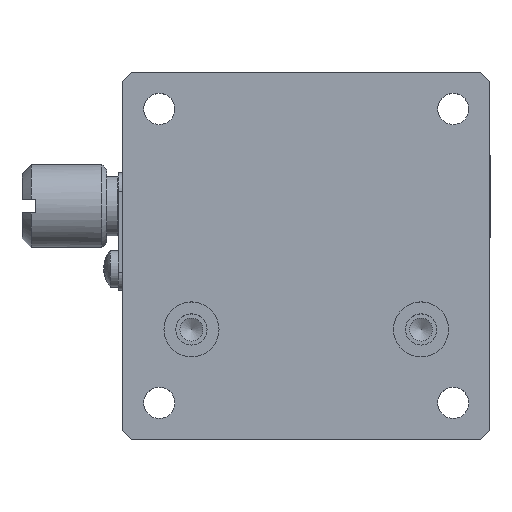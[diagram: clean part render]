
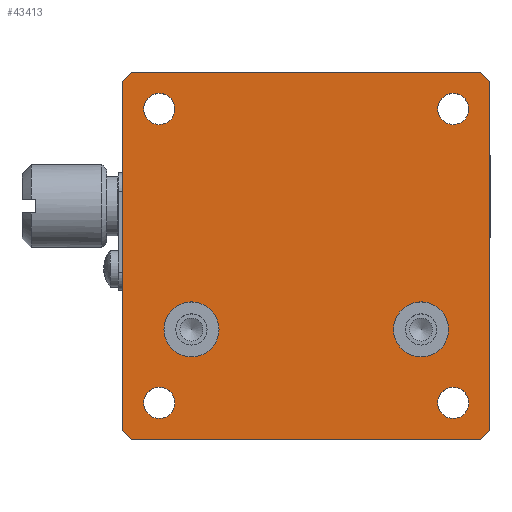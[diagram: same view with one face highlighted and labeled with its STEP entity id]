
A CAD part, top view. The second image highlights one B-rep face of the part: STEP entity #43413.
In plain terms, the highlighted planar face has unit normal (0, 0, 1).
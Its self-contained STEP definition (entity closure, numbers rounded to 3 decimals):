
#26 = LINE ( 'NONE', #17338, #43113 ) ;
#328 = VERTEX_POINT ( 'NONE', #13870 ) ;
#778 = EDGE_CURVE ( 'NONE', #35735, #4949, #28948, .T. ) ;
#1059 = CARTESIAN_POINT ( 'NONE',  ( 40., -16., 20. ) ) ;
#1436 = CIRCLE ( 'NONE', #37546, 1.7 ) ;
#1535 = DIRECTION ( 'NONE',  ( -1., 0., 0. ) ) ;
#1642 = ORIENTED_EDGE ( 'NONE', *, *, #37583, .F. ) ;
#1684 = EDGE_LOOP ( 'NONE', ( #1642 ) ) ;
#1768 = EDGE_CURVE ( 'NONE', #27852, #28931, #32972, .T. ) ;
#1866 = CIRCLE ( 'NONE', #32315, 1.7 ) ;
#2283 = DIRECTION ( 'NONE',  ( 1., 0., 0. ) ) ;
#2494 = FACE_BOUND ( 'NONE', #21741, .T. ) ;
#2622 = AXIS2_PLACEMENT_3D ( 'NONE', #42362, #25749, #29733 ) ;
#2790 = ORIENTED_EDGE ( 'NONE', *, *, #7925, .T. ) ;
#2799 = VECTOR ( 'NONE', #14660, 1000. ) ;
#2844 = VERTEX_POINT ( 'NONE', #19629 ) ;
#3429 = VERTEX_POINT ( 'NONE', #40222 ) ;
#4176 = DIRECTION ( 'NONE',  ( 1., 0., 0. ) ) ;
#4797 = EDGE_LOOP ( 'NONE', ( #6666 ) ) ;
#4949 = VERTEX_POINT ( 'NONE', #21578 ) ;
#5054 = VECTOR ( 'NONE', #17918, 1000. ) ;
#5597 = FACE_BOUND ( 'NONE', #35277, .T. ) ;
#5602 = CARTESIAN_POINT ( 'NONE',  ( 39.5, -15.5, 20. ) ) ;
#5825 = FACE_BOUND ( 'NONE', #4797, .T. ) ;
#6666 = ORIENTED_EDGE ( 'NONE', *, *, #36791, .T. ) ;
#7925 = EDGE_CURVE ( 'NONE', #32517, #2844, #26284, .T. ) ;
#7998 = CARTESIAN_POINT ( 'NONE',  ( 0., 24., 20. ) ) ;
#8506 = PLANE ( 'NONE',  #14692 ) ;
#11140 = ORIENTED_EDGE ( 'NONE', *, *, #26234, .T. ) ;
#12071 = CIRCLE ( 'NONE', #27633, 3. ) ;
#13288 = CARTESIAN_POINT ( 'NONE',  ( 36., 20., 20. ) ) ;
#13295 = CIRCLE ( 'NONE', #2622, 1.7 ) ;
#13371 = EDGE_CURVE ( 'NONE', #24329, #24329, #1866, .T. ) ;
#13745 = DIRECTION ( 'NONE',  ( 0., 0., 1. ) ) ;
#13870 = CARTESIAN_POINT ( 'NONE',  ( 34.3, 20., 20. ) ) ;
#14060 = ORIENTED_EDGE ( 'NONE', *, *, #40157, .F. ) ;
#14204 = ORIENTED_EDGE ( 'NONE', *, *, #16076, .T. ) ;
#14422 = EDGE_LOOP ( 'NONE', ( #28078 ) ) ;
#14660 = DIRECTION ( 'NONE',  ( 0., 1., 0. ) ) ;
#14692 = AXIS2_PLACEMENT_3D ( 'NONE', #19140, #32655, #2283 ) ;
#14787 = VERTEX_POINT ( 'NONE', #35360 ) ;
#15266 = DIRECTION ( 'NONE',  ( 0., 0., -1. ) ) ;
#15288 = LINE ( 'NONE', #7998, #2799 ) ;
#15603 = LINE ( 'NONE', #5602, #27389 ) ;
#16076 = EDGE_CURVE ( 'NONE', #17251, #17251, #13295, .T. ) ;
#16265 = AXIS2_PLACEMENT_3D ( 'NONE', #29444, #36329, #26569 ) ;
#16377 = VECTOR ( 'NONE', #4176, 1000. ) ;
#17010 = CARTESIAN_POINT ( 'NONE',  ( 2.3, -12., 20. ) ) ;
#17251 = VERTEX_POINT ( 'NONE', #17675 ) ;
#17338 = CARTESIAN_POINT ( 'NONE',  ( 39.5, 23.5, 20. ) ) ;
#17675 = CARTESIAN_POINT ( 'NONE',  ( 34.3, -12., 20. ) ) ;
#17918 = DIRECTION ( 'NONE',  ( -1., 0., 0. ) ) ;
#18589 = CARTESIAN_POINT ( 'NONE',  ( 4., -12., 20. ) ) ;
#19140 = CARTESIAN_POINT ( 'NONE',  ( 20., 4., 20. ) ) ;
#19365 = FACE_OUTER_BOUND ( 'NONE', #41261, .T. ) ;
#19629 = CARTESIAN_POINT ( 'NONE',  ( 0., 23., 20. ) ) ;
#20285 = CARTESIAN_POINT ( 'NONE',  ( 2.3, 20., 20. ) ) ;
#20947 = VERTEX_POINT ( 'NONE', #20285 ) ;
#21090 = CARTESIAN_POINT ( 'NONE',  ( 1., 24., 20. ) ) ;
#21578 = CARTESIAN_POINT ( 'NONE',  ( 1., -16., 20. ) ) ;
#21741 = EDGE_LOOP ( 'NONE', ( #23825 ) ) ;
#21909 = ORIENTED_EDGE ( 'NONE', *, *, #36493, .F. ) ;
#22043 = EDGE_CURVE ( 'NONE', #14787, #14787, #36906, .T. ) ;
#22268 = CARTESIAN_POINT ( 'NONE',  ( 32.5, -4., 20. ) ) ;
#22288 = EDGE_CURVE ( 'NONE', #32517, #40389, #41209, .T. ) ;
#23030 = DIRECTION ( 'NONE',  ( -1., 0., 0. ) ) ;
#23825 = ORIENTED_EDGE ( 'NONE', *, *, #13371, .T. ) ;
#24329 = VERTEX_POINT ( 'NONE', #17010 ) ;
#25167 = DIRECTION ( 'NONE',  ( 0.707, 0.707, 0. ) ) ;
#25749 = DIRECTION ( 'NONE',  ( 0., 0., -1. ) ) ;
#25875 = ORIENTED_EDGE ( 'NONE', *, *, #36284, .T. ) ;
#26234 = EDGE_CURVE ( 'NONE', #34222, #28931, #15603, .T. ) ;
#26284 = LINE ( 'NONE', #33148, #28549 ) ;
#26569 = DIRECTION ( 'NONE',  ( -1., 0., 0. ) ) ;
#26910 = ORIENTED_EDGE ( 'NONE', *, *, #778, .T. ) ;
#27389 = VECTOR ( 'NONE', #25167, 1000. ) ;
#27633 = AXIS2_PLACEMENT_3D ( 'NONE', #22268, #32461, #42859 ) ;
#27852 = VERTEX_POINT ( 'NONE', #39816 ) ;
#28078 = ORIENTED_EDGE ( 'NONE', *, *, #22043, .F. ) ;
#28106 = CARTESIAN_POINT ( 'NONE',  ( 40., 24., 20. ) ) ;
#28549 = VECTOR ( 'NONE', #37376, 1000. ) ;
#28931 = VERTEX_POINT ( 'NONE', #31769 ) ;
#28948 = LINE ( 'NONE', #35618, #29726 ) ;
#29444 = CARTESIAN_POINT ( 'NONE',  ( 4., 20., 20. ) ) ;
#29616 = DIRECTION ( 'NONE',  ( 0.707, -0.707, 0. ) ) ;
#29726 = VECTOR ( 'NONE', #29616, 1000. ) ;
#29733 = DIRECTION ( 'NONE',  ( -1., 0., 0. ) ) ;
#31209 = ORIENTED_EDGE ( 'NONE', *, *, #1768, .F. ) ;
#31294 = DIRECTION ( 'NONE',  ( -0.707, 0.707, 0. ) ) ;
#31769 = CARTESIAN_POINT ( 'NONE',  ( 40., -15., 20. ) ) ;
#31980 = CARTESIAN_POINT ( 'NONE',  ( 7.5, -4., 20. ) ) ;
#32219 = FACE_BOUND ( 'NONE', #1684, .T. ) ;
#32315 = AXIS2_PLACEMENT_3D ( 'NONE', #18589, #15266, #1535 ) ;
#32461 = DIRECTION ( 'NONE',  ( 0., 0., 1. ) ) ;
#32517 = VERTEX_POINT ( 'NONE', #21090 ) ;
#32655 = DIRECTION ( 'NONE',  ( 0., 0., 1. ) ) ;
#32857 = ORIENTED_EDGE ( 'NONE', *, *, #36848, .T. ) ;
#32972 = LINE ( 'NONE', #39625, #40363 ) ;
#33148 = CARTESIAN_POINT ( 'NONE',  ( 0.5, 23.5, 20. ) ) ;
#33616 = CARTESIAN_POINT ( 'NONE',  ( 39., -16., 20. ) ) ;
#33999 = CIRCLE ( 'NONE', #16265, 1.7 ) ;
#34222 = VERTEX_POINT ( 'NONE', #33616 ) ;
#34420 = EDGE_LOOP ( 'NONE', ( #14204 ) ) ;
#35277 = EDGE_LOOP ( 'NONE', ( #32857 ) ) ;
#35360 = CARTESIAN_POINT ( 'NONE',  ( 10.5, -4., 20. ) ) ;
#35442 = DIRECTION ( 'NONE',  ( 0., -1., 0. ) ) ;
#35618 = CARTESIAN_POINT ( 'NONE',  ( 0.5, -15.5, 20. ) ) ;
#35735 = VERTEX_POINT ( 'NONE', #39255 ) ;
#36214 = FACE_BOUND ( 'NONE', #34420, .T. ) ;
#36284 = EDGE_CURVE ( 'NONE', #27852, #40389, #26, .T. ) ;
#36329 = DIRECTION ( 'NONE',  ( 0., 0., -1. ) ) ;
#36493 = EDGE_CURVE ( 'NONE', #35735, #2844, #15288, .T. ) ;
#36791 = EDGE_CURVE ( 'NONE', #20947, #20947, #33999, .T. ) ;
#36848 = EDGE_CURVE ( 'NONE', #328, #328, #1436, .T. ) ;
#36906 = CIRCLE ( 'NONE', #40457, 3. ) ;
#37376 = DIRECTION ( 'NONE',  ( -0.707, -0.707, 0. ) ) ;
#37546 = AXIS2_PLACEMENT_3D ( 'NONE', #13288, #39204, #23030 ) ;
#37583 = EDGE_CURVE ( 'NONE', #3429, #3429, #12071, .T. ) ;
#39204 = DIRECTION ( 'NONE',  ( 0., 0., -1. ) ) ;
#39255 = CARTESIAN_POINT ( 'NONE',  ( 0., -15., 20. ) ) ;
#39625 = CARTESIAN_POINT ( 'NONE',  ( 40., 24., 20. ) ) ;
#39816 = CARTESIAN_POINT ( 'NONE',  ( 40., 23., 20. ) ) ;
#40157 = EDGE_CURVE ( 'NONE', #34222, #4949, #42048, .T. ) ;
#40222 = CARTESIAN_POINT ( 'NONE',  ( 35.5, -4., 20. ) ) ;
#40363 = VECTOR ( 'NONE', #35442, 1000. ) ;
#40389 = VERTEX_POINT ( 'NONE', #41512 ) ;
#40457 = AXIS2_PLACEMENT_3D ( 'NONE', #31980, #13745, #40540 ) ;
#40540 = DIRECTION ( 'NONE',  ( 1., 0., 0. ) ) ;
#41209 = LINE ( 'NONE', #28106, #16377 ) ;
#41261 = EDGE_LOOP ( 'NONE', ( #21909, #26910, #14060, #11140, #31209, #25875, #41666, #2790 ) ) ;
#41512 = CARTESIAN_POINT ( 'NONE',  ( 39., 24., 20. ) ) ;
#41666 = ORIENTED_EDGE ( 'NONE', *, *, #22288, .F. ) ;
#42048 = LINE ( 'NONE', #1059, #5054 ) ;
#42362 = CARTESIAN_POINT ( 'NONE',  ( 36., -12., 20. ) ) ;
#42407 = FACE_BOUND ( 'NONE', #14422, .T. ) ;
#42859 = DIRECTION ( 'NONE',  ( 1., 0., 0. ) ) ;
#43113 = VECTOR ( 'NONE', #31294, 1000. ) ;
#43413 = ADVANCED_FACE ( 'NONE', ( #32219, #42407, #36214, #5597, #5825, #2494, #19365 ), #8506, .T. ) ;
